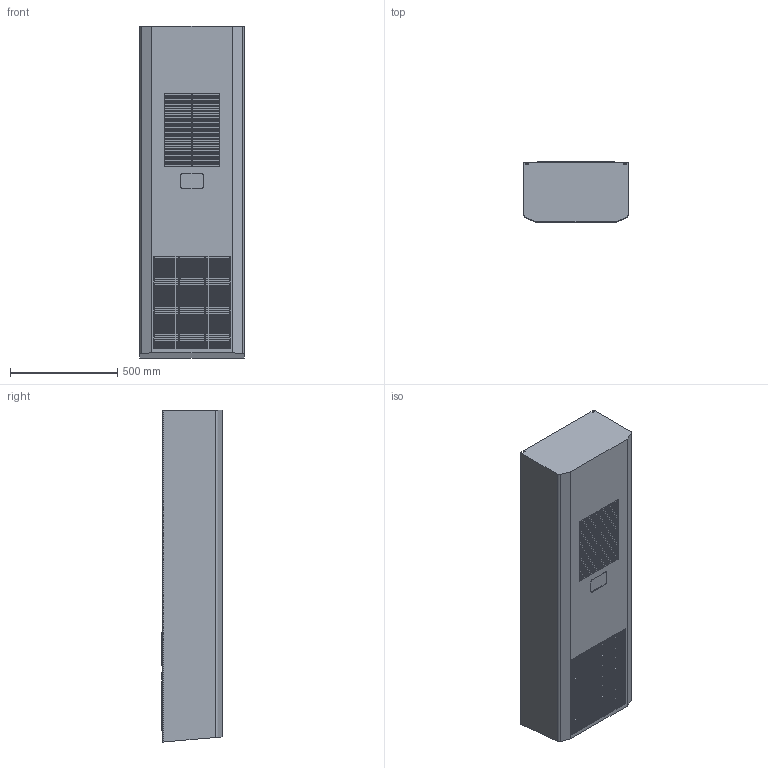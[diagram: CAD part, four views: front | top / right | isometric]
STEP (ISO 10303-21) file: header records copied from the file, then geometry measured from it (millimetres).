
FILE_DESCRIPTION (( 'STEP AP203' ), '1' );
FILE_NAME ('DTS 64_6501 GS CON_CLEAN_STEP.STEP', '2026-04-30T14:55:19', ( '' ), ( '' ), 'SwSTEP 2.0', 'SolidWorks 2024', '' );
FILE_SCHEMA (( 'CONFIG_CONTROL_DESIGN' ));
Length unit declared in the file: millimetre
Products named in the file (1): DTS 64_6501 GS CON_CLEAN_STEP
Bounding box: 485 x 280.06 x 1547.5 mm (x, y, z)
Volume: 201771782.2 mm3; surface area: 2812848 mm2
Topology: 1 solids, 1 shells, 1144 faces, 2749 edges, 1832 vertices
Faces by surface type: plane 709, cylinder 435
Full cylindrical faces by diameter (mm): 6.9 x8, 13 x8, 174.2 x1
Entity records: 33375 total; most frequent: DIRECTION 5884, CARTESIAN_POINT 5721, ORIENTED_EDGE 5464, EDGE_CURVE 2732, AXIS2_PLACEMENT_3D 2011, VECTOR 1862, LINE 1862, VERTEX_POINT 1832
